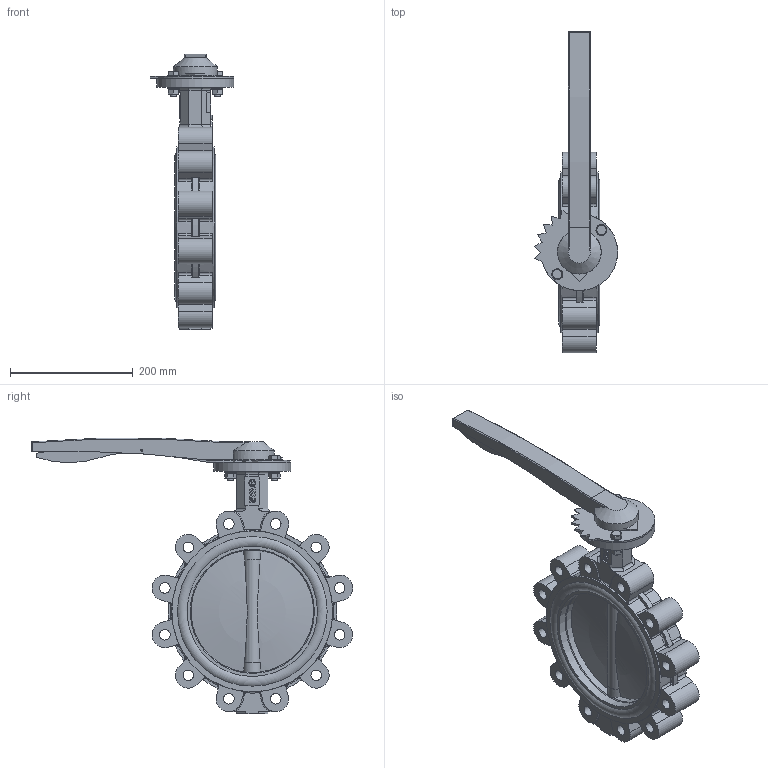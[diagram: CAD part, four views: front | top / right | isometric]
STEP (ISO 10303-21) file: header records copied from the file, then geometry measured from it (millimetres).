
FILE_DESCRIPTION(('STEP AP242'), '1');
FILE_NAME('Ïîâîðîòíûé çàòâîð ïîä ýëåêòðîïðèâîä', '', ('UNSPECIFIED'), ('UNSPECIFIED'), 'C3D Converter', 'C3D Toolkit', '');
FILE_SCHEMA(('AP242_MANAGED_MODEL_BASED_3D_ENGINEERING_MIM_LF { 1 0 10303 442 1 1 4 }'));
Length unit declared in the file: millimetre
Products named in the file (14): П
Assembly tree (20 placements, depth 3):
  (unnamed)
    (unnamed)
    П  x2
    (unnamed)
    (unnamed)
    (unnamed)
    (unnamed)
      (unnamed)
      (unnamed)
      (unnamed)
    (unnamed)  x2
    (unnamed)  x4
    (unnamed)  x2
    (unnamed)  x2
Bounding box: 135.83 x 523.39 x 449.28 mm (x, y, z)
Volume: 3450202.5 mm3; surface area: 687408.6 mm2
Topology: 19 solids, 19 shells, 831 faces, 2106 edges, 1348 vertices
Faces by surface type: plane 348, cylinder 223, extrusion 151, torus 83, cone 18, sphere 6, bspline 2
Full cylindrical faces by diameter (mm): 3 x4, 6 x2, 8.376 x2, 10 x2, 11 x4, 11.421 x1, 12 x6, 17.294 x12, 18 x4, 22 x5, 24.2 x1, 28.975 x4, 31.113 x5, 33.941 x1, 125 x1, 200 x1, 202.5 x2, 212.5 x2, 228.25 x4, 244 x4, 262.333 x2
Entity records: 32182 total; most frequent: CARTESIAN_POINT 10818, ORIENTED_EDGE 3868, DIRECTION 3514, EDGE_CURVE 1934, VERTEX_POINT 1288, AXIS2_PLACEMENT_3D 1209, VECTOR 1096, EDGE_LOOP 956
